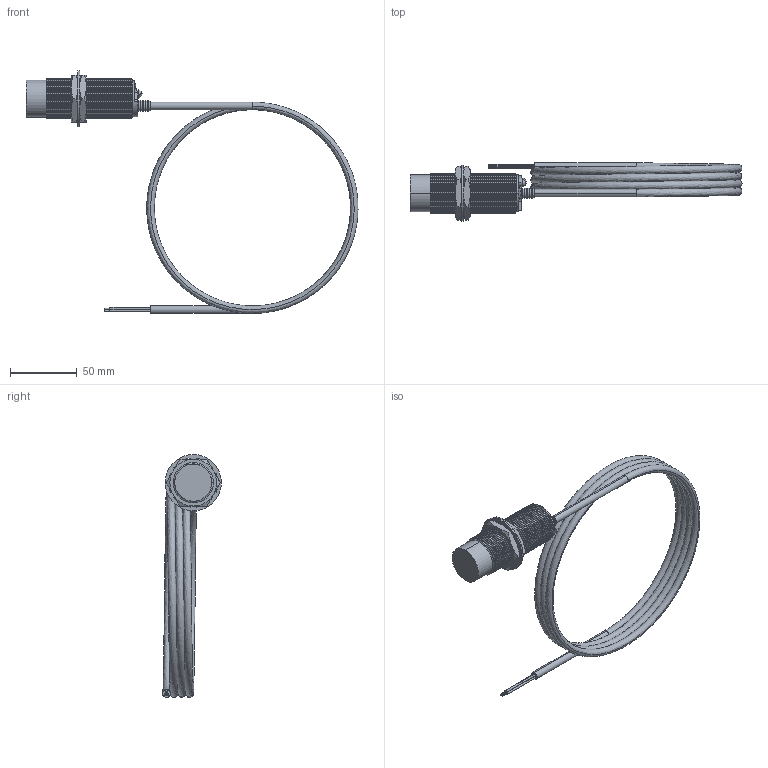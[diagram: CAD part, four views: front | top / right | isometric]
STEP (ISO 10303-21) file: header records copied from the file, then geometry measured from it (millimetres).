
FILE_DESCRIPTION (( 'STEP AP203' ), '1' );
FILE_NAME ('90-29417-066.STEP', '2015-11-16T00:48:20', ( 'Sam' ), ( 'Spade' ), 'SwSTEP 2.0', 'SolidWorks 2002296', '' );
FILE_SCHEMA (( 'CONFIG_CONTROL_DESIGN' ));
Length unit declared in the file: inch
Products named in the file (18): 90-29417-066; Imported140; Imported125; Imported124; Imported128; Imported127; Imported126; Imported132; Imported131; Imported130; Imported129; Imported135; Imported134; Imported133; Imported139; Imported138; Imported137; Imported136
Assembly tree (17 placements, depth 2):
  90-29417-066
    Imported135
    Imported124
    Imported134
    Imported137
    Imported136
    Imported138
    Imported127
    Imported128
    Imported132
    Imported129
    Imported125
    Imported126
    Imported130
    Imported131
    Imported139
    Imported140
    Imported133
Bounding box: 248.53 x 43.98 x 181.8 mm (x, y, z)
Volume: 106051.6 mm3; surface area: 54846.9 mm2
Topology: 17 solids, 17 shells, 486 faces, 1141 edges, 695 vertices
Faces by surface type: cone 225, cylinder 160, plane 96, bspline 5
Entity records: 17007 total; most frequent: CARTESIAN_POINT 3579, DIRECTION 2658, ORIENTED_EDGE 2278, EDGE_CURVE 1139, AXIS2_PLACEMENT_3D 1080, VERTEX_POINT 695, CIRCLE 579, EDGE_LOOP 502
